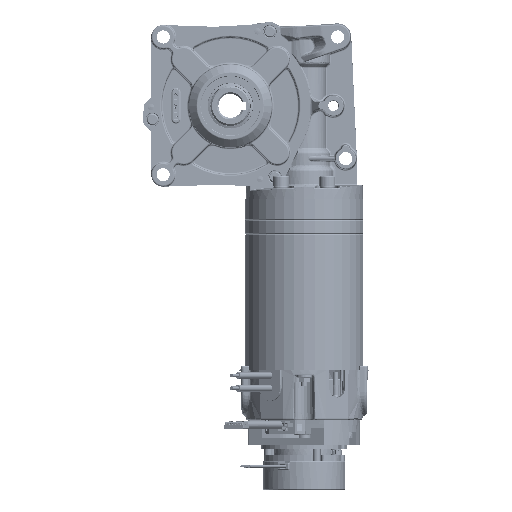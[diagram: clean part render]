
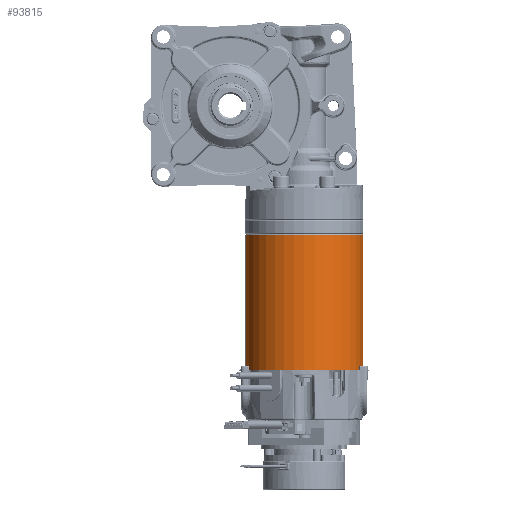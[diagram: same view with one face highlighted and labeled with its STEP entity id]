
A CAD part, left-side view. The second image highlights one B-rep face of the part: STEP entity #93815.
In plain terms, the highlighted cylindrical face has radius 37 mm (diameter 74 mm), a partial arc.
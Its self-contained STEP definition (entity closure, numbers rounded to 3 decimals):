
#9565 = CIRCLE ( 'NONE', #233161, 37. ) ;
#19311 = VECTOR ( 'NONE', #27858, 1000. ) ;
#27858 = DIRECTION ( 'NONE',  ( 0., 0., -1. ) ) ;
#28765 = EDGE_LOOP ( 'NONE', ( #213665, #314470, #230078, #322520 ) ) ;
#28991 = CYLINDRICAL_SURFACE ( 'NONE', #270505, 37. ) ;
#33656 = VERTEX_POINT ( 'NONE', #266687 ) ;
#47193 = LINE ( 'NONE', #55022, #379749 ) ;
#55022 = CARTESIAN_POINT ( 'NONE',  ( -133.276, -23.855, 19.684 ) ) ;
#60890 = FACE_OUTER_BOUND ( 'NONE', #28765, .T. ) ;
#79497 = CARTESIAN_POINT ( 'NONE',  ( -126.805, -60.285, -64.816 ) ) ;
#93815 = ADVANCED_FACE ( 'NONE', ( #60890 ), #28991, .T. ) ;
#109533 = DIRECTION ( 'NONE',  ( 0., 0., 1. ) ) ;
#114041 = VERTEX_POINT ( 'NONE', #159124 ) ;
#117836 = LINE ( 'NONE', #121782, #19311 ) ;
#121782 = CARTESIAN_POINT ( 'NONE',  ( -120.334, -96.714, 19.684 ) ) ;
#124525 = CARTESIAN_POINT ( 'NONE',  ( -133.276, -23.855, -64.816 ) ) ;
#124735 = CARTESIAN_POINT ( 'NONE',  ( -126.805, -60.285, 19.184 ) ) ;
#136753 = EDGE_CURVE ( 'NONE', #298656, #33656, #391397, .T. ) ;
#157555 = EDGE_CURVE ( 'NONE', #240852, #114041, #9565, .T. ) ;
#159124 = CARTESIAN_POINT ( 'NONE',  ( -120.334, -96.714, -64.816 ) ) ;
#211162 = CARTESIAN_POINT ( 'NONE',  ( -126.805, -60.285, 19.684 ) ) ;
#213665 = ORIENTED_EDGE ( 'NONE', *, *, #136753, .T. ) ;
#230078 = ORIENTED_EDGE ( 'NONE', *, *, #157555, .T. ) ;
#233161 = AXIS2_PLACEMENT_3D ( 'NONE', #79497, #109533, #285835 ) ;
#240852 = VERTEX_POINT ( 'NONE', #124525 ) ;
#242938 = DIRECTION ( 'NONE',  ( 0., 0., -1. ) ) ;
#266687 = CARTESIAN_POINT ( 'NONE',  ( -133.276, -23.855, 19.184 ) ) ;
#270505 = AXIS2_PLACEMENT_3D ( 'NONE', #211162, #305093, #391285 ) ;
#280198 = CARTESIAN_POINT ( 'NONE',  ( -120.334, -96.714, 19.184 ) ) ;
#285835 = DIRECTION ( 'NONE',  ( 0.175, -0.985, 0. ) ) ;
#298656 = VERTEX_POINT ( 'NONE', #280198 ) ;
#299251 = DIRECTION ( 'NONE',  ( 0., 0., -1. ) ) ;
#305093 = DIRECTION ( 'NONE',  ( 0., 0., -1. ) ) ;
#314470 = ORIENTED_EDGE ( 'NONE', *, *, #364351, .T. ) ;
#322520 = ORIENTED_EDGE ( 'NONE', *, *, #394275, .F. ) ;
#364351 = EDGE_CURVE ( 'NONE', #33656, #240852, #47193, .T. ) ;
#365995 = AXIS2_PLACEMENT_3D ( 'NONE', #124735, #242938, #393088 ) ;
#379749 = VECTOR ( 'NONE', #299251, 1000. ) ;
#391285 = DIRECTION ( 'NONE',  ( 0.175, -0.985, 0. ) ) ;
#391397 = CIRCLE ( 'NONE', #365995, 37. ) ;
#393088 = DIRECTION ( 'NONE',  ( 0.175, -0.985, 0. ) ) ;
#394275 = EDGE_CURVE ( 'NONE', #298656, #114041, #117836, .T. ) ;
